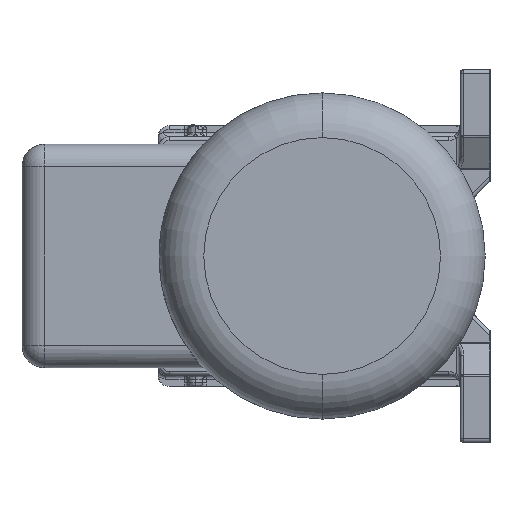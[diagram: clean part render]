
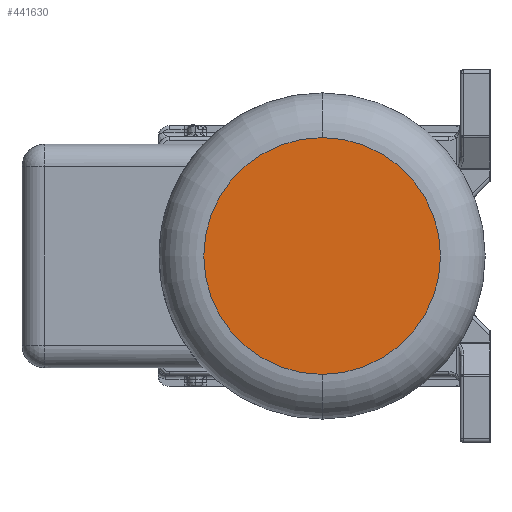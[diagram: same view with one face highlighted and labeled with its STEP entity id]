
A CAD part, left-side view. The second image highlights one B-rep face of the part: STEP entity #441630.
In plain terms, the highlighted planar face has unit normal (-1, 0, 0).
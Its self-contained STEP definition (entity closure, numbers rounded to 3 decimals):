
#441210=CARTESIAN_POINT('',(-69.217,62.742,31.75));
#441220=VERTEX_POINT('',#441210);
#441320=CARTESIAN_POINT('',(-69.217,62.742,-31.75));
#441330=VERTEX_POINT('',#441320);
#441360=CARTESIAN_POINT('',(-69.217,62.742,0.));
#441370=DIRECTION('',(-1.,0.,0.));
#441380=DIRECTION('',(0.,0.,1.));
#441390=AXIS2_PLACEMENT_3D('',#441360,#441370,#441380);
#441400=CIRCLE('',#441390,31.75);
#441410=EDGE_CURVE('',#441330,#441220,#441400,.T.);
#441530=CARTESIAN_POINT('',(-69.217,85.517,
8.207));
#441540=DIRECTION('',(-1.,0.,0.));
#441550=DIRECTION('',(0.,0.,1.));
#441560=AXIS2_PLACEMENT_3D('',#441530,#441540,#441550);
#441570=PLANE('',#441560);
#441580=EDGE_CURVE('',#441220,#441330,#441400,.T.);
#441590=ORIENTED_EDGE('',*,*,#441580,.T.);
#441600=ORIENTED_EDGE('',*,*,#441410,.T.);
#441610=EDGE_LOOP('',(#441600,#441590));
#441620=FACE_OUTER_BOUND('',#441610,.T.);
#441630=ADVANCED_FACE('',(#441620),#441570,.T.);
